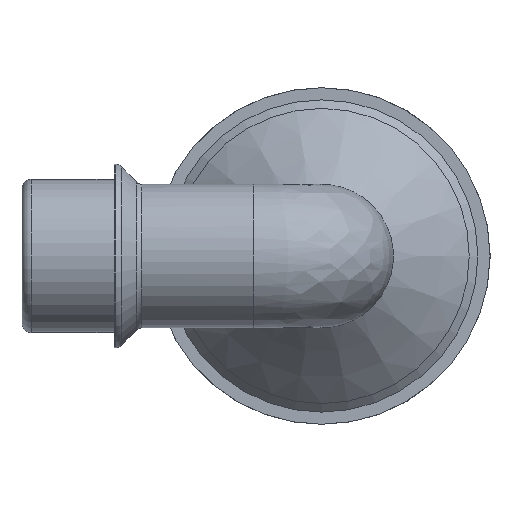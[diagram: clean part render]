
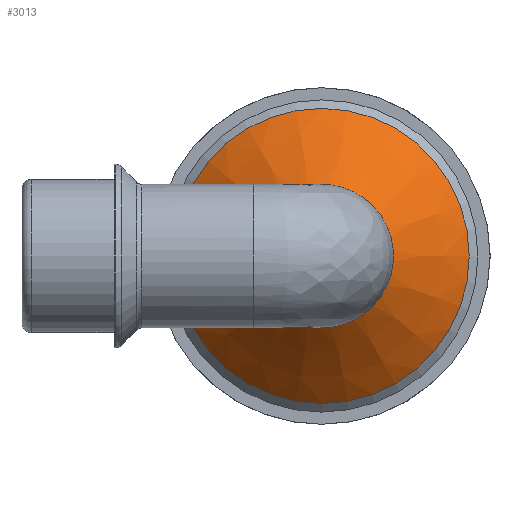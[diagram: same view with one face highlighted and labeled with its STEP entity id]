
A CAD part, left-side view. The second image highlights one B-rep face of the part: STEP entity #3013.
In plain terms, the highlighted conical face has half-angle 45 degrees and reference radius 23.772 mm.
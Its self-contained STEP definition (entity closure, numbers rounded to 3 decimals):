
#508=CONICAL_SURFACE('',#3232,23.772,45.);
#539=FACE_BOUND('',#872,.T.);
#561=B_SPLINE_CURVE_WITH_KNOTS('',3,(#4584,#4585,#4586,#4587,#4588,#4589,
#4590,#4591,#4592,#4593,#4594,#4595,#4596,#4597),.UNSPECIFIED.,.F.,.F.,
(4,2,2,2,2,2,4),(5.938,5.942,6.202,6.462,
6.722,6.982,6.986),.UNSPECIFIED.);
#656=FACE_OUTER_BOUND('',#871,.T.);
#871=EDGE_LOOP('',(#2029,#2030));
#872=EDGE_LOOP('',(#2031));
#1106=CIRCLE('',#3231,15.544);
#1107=CIRCLE('',#3233,32.);
#1282=VERTEX_POINT('',#4582);
#1283=VERTEX_POINT('',#4583);
#1287=VERTEX_POINT('',#4636);
#1558=EDGE_CURVE('',#1282,#1283,#561,.T.);
#1563=EDGE_CURVE('',#1282,#1283,#1106,.T.);
#1564=EDGE_CURVE('',#1287,#1287,#1107,.T.);
#2029=ORIENTED_EDGE('',*,*,#1558,.F.);
#2030=ORIENTED_EDGE('',*,*,#1563,.T.);
#2031=ORIENTED_EDGE('',*,*,#1564,.F.);
#3013=ADVANCED_FACE('',(#656,#539),#508,.T.);
#3231=AXIS2_PLACEMENT_3D('',#4634,#3632,#3633);
#3232=AXIS2_PLACEMENT_3D('',#4635,#3634,#3635);
#3233=AXIS2_PLACEMENT_3D('',#4637,#3636,#3637);
#3632=DIRECTION('center_axis',(1.,0.,0.));
#3633=DIRECTION('ref_axis',(0.,0.,-1.));
#3634=DIRECTION('center_axis',(1.,0.,0.));
#3635=DIRECTION('ref_axis',(0.,1.,0.));
#3636=DIRECTION('center_axis',(1.,0.,0.));
#3637=DIRECTION('ref_axis',(0.,0.,-1.));
#4582=CARTESIAN_POINT('',(14.7,14.7,5.052));
#4583=CARTESIAN_POINT('',(14.7,14.7,-5.052));
#4584=CARTESIAN_POINT('Ctrl Pts',(14.7,14.7,5.052));
#4585=CARTESIAN_POINT('Ctrl Pts',(14.704,14.708,5.041));
#4586=CARTESIAN_POINT('Ctrl Pts',(14.707,14.715,5.03));
#4587=CARTESIAN_POINT('Ctrl Pts',(14.944,15.202,4.337));
#4588=CARTESIAN_POINT('Ctrl Pts',(15.165,15.642,3.525));
#4589=CARTESIAN_POINT('Ctrl Pts',(15.466,16.236,1.791));
#4590=CARTESIAN_POINT('Ctrl Pts',(15.544,16.388,0.866));
#4591=CARTESIAN_POINT('Ctrl Pts',(15.544,16.388,-0.866));
#4592=CARTESIAN_POINT('Ctrl Pts',(15.466,16.236,-1.791));
#4593=CARTESIAN_POINT('Ctrl Pts',(15.165,15.642,-3.525));
#4594=CARTESIAN_POINT('Ctrl Pts',(14.944,15.202,-4.337));
#4595=CARTESIAN_POINT('Ctrl Pts',(14.707,14.715,-5.03));
#4596=CARTESIAN_POINT('Ctrl Pts',(14.704,14.708,-5.041));
#4597=CARTESIAN_POINT('Ctrl Pts',(14.7,14.7,-5.052));
#4634=CARTESIAN_POINT('Origin',(14.7,0.,0.));
#4635=CARTESIAN_POINT('Origin',(22.928,0.,0.));
#4636=CARTESIAN_POINT('',(31.156,32.,0.));
#4637=CARTESIAN_POINT('Origin',(31.156,0.,0.));
